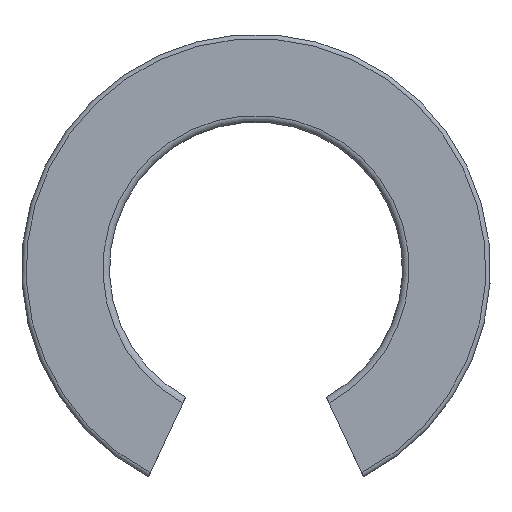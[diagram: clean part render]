
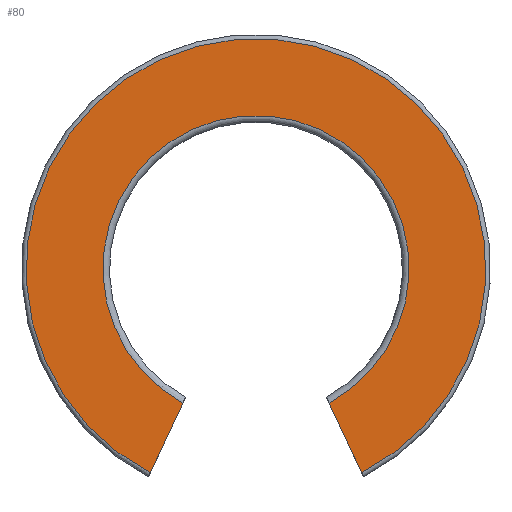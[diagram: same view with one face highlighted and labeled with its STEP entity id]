
A CAD part, left-side view. The second image highlights one B-rep face of the part: STEP entity #80.
In plain terms, the highlighted planar face has unit normal (-1, 0, 0).
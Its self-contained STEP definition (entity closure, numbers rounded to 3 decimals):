
#80=ADVANCED_FACE('',(#112),#113,.F.);
#112=FACE_OUTER_BOUND('',#164,.T.);
#113=PLANE('',#165);
#164=EDGE_LOOP('',(#261,#262,#263,#264));
#165=AXIS2_PLACEMENT_3D('',#265,#266,#267);
#261=ORIENTED_EDGE('',*,*,#428,.F.);
#262=ORIENTED_EDGE('',*,*,#454,.F.);
#263=ORIENTED_EDGE('',*,*,#462,.F.);
#264=ORIENTED_EDGE('',*,*,#463,.T.);
#265=CARTESIAN_POINT('',(0.0,19.619,0.0));
#266=DIRECTION('',(1.0,0.0,0.0));
#267=DIRECTION('',(0.0,0.0,-1.0));
#428=EDGE_CURVE('',#500,#501,#502,.T.);
#454=EDGE_CURVE('',#550,#500,#552,.T.);
#462=EDGE_CURVE('',#564,#550,#565,.T.);
#463=EDGE_CURVE('',#564,#501,#566,.T.);
#500=VERTEX_POINT('',#620);
#501=VERTEX_POINT('',#621);
#502=LINE('',#622,#623);
#550=VERTEX_POINT('',#710);
#552=CIRCLE('',#717,13.058);
#564=VERTEX_POINT('',#740);
#565=LINE('',#741,#742);
#566=CIRCLE('',#743,19.619);
#620=CARTESIAN_POINT('',(0.0,6.236,-11.473));
#621=CARTESIAN_POINT('',(0.0,9.013,-17.426));
#622=CARTESIAN_POINT('',(0.0,4.232,-7.175));
#623=VECTOR('',#820,1.0);
#710=CARTESIAN_POINT('',(0.0,-6.236,-11.473));
#717=AXIS2_PLACEMENT_3D('',#843,#844,#845);
#740=CARTESIAN_POINT('',(0.0,-9.013,-17.426));
#741=CARTESIAN_POINT('',(0.0,2.776,7.854));
#742=VECTOR('',#859,1.0);
#743=AXIS2_PLACEMENT_3D('',#860,#861,#862);
#820=DIRECTION('',(0.0,0.423,-0.906));
#843=CARTESIAN_POINT('',(0.0,0.0,0.0));
#844=DIRECTION('',(-1.0,0.0,0.0));
#845=DIRECTION('',(0.0,0.0,1.0));
#859=DIRECTION('',(0.0,0.423,0.906));
#860=CARTESIAN_POINT('',(0.0,0.0,0.0));
#861=DIRECTION('',(-1.0,0.0,0.0));
#862=DIRECTION('',(0.0,0.0,1.0));
